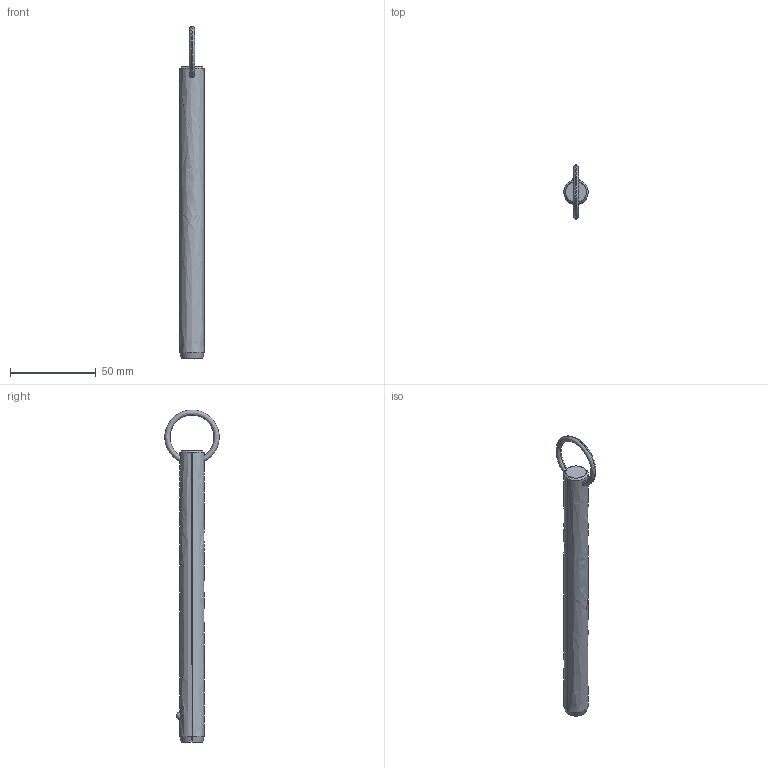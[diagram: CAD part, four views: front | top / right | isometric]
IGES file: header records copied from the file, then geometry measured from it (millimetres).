
Start section: SolidWorks IGES file using analytic representation for surfaces
Global section: file name: C:\Users\liam_\OneDrive\Documents\WORK\Work for WixRoyd\Job Files\J-00019 - Matt Davis CAD Checking\04. CAD Drawings\automotion20190605\P1250.2_v2\P1250.2_v2_20190729_IGES\P1250.056-570.igs; native system: SolidWorks 2017; preprocessor: SolidWorks 2017; author: liam_; date: 190729.232615; units: millimetre
Bounding box: 14.2 x 31.68 x 193.9 mm (x, y, z)
Surface area: 8554.1 mm2 (no closed solid volume)
Topology: 0 solids, 0 shells, 12 faces, 285 edges, 283 vertices
Faces by surface type: revolution 8, bspline 4
